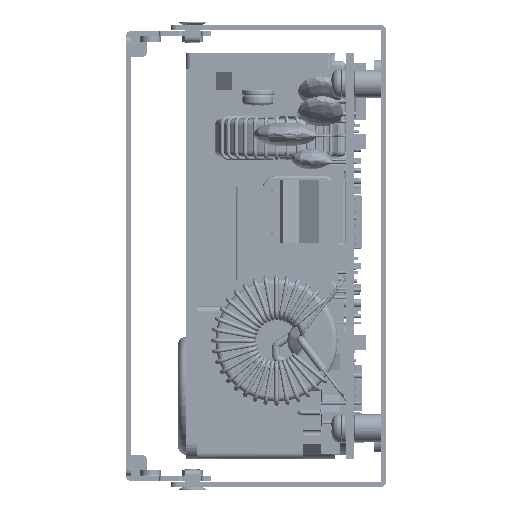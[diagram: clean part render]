
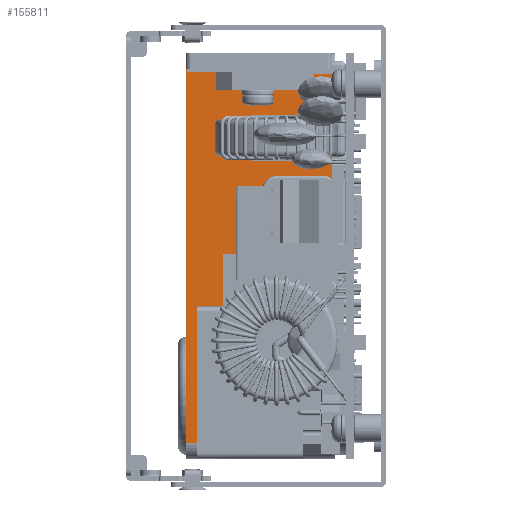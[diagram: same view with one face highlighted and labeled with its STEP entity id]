
A CAD part, left-side view. The second image highlights one B-rep face of the part: STEP entity #155811.
In plain terms, the highlighted planar face has unit normal (-1, 0, 0).
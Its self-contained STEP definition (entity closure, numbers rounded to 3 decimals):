
#103405 = CARTESIAN_POINT ( 'NONE',  ( 34., 30., -73.2 ) ) ;
#103407 = DIRECTION ( 'NONE',  ( 0., -1., 0. ) ) ;
#103408 = VECTOR ( 'NONE', #103407, 1000. ) ;
#103411 = CARTESIAN_POINT ( 'NONE',  ( 34., 30., -73.2 ) ) ;
#103412 = LINE ( 'NONE', #103411, #103408 ) ;
#103960 = CARTESIAN_POINT ( 'NONE',  ( 34., 2.5, -73.2 ) ) ;
#104399 = DIRECTION ( 'NONE',  ( 0., 0., -1. ) ) ;
#104401 = DIRECTION ( 'NONE',  ( 1., 0., 0. ) ) ;
#104402 = CARTESIAN_POINT ( 'NONE',  ( 34., 9.5, -33.7 ) ) ;
#104404 = AXIS2_PLACEMENT_3D ( 'NONE', #104402, #104401, #104399 ) ;
#104406 = CIRCLE ( 'NONE', #104404, 3.25 ) ;
#104726 = DIRECTION ( 'NONE',  ( 0., 0., -1. ) ) ;
#104728 = DIRECTION ( 'NONE',  ( 1., 0., 0. ) ) ;
#104729 = AXIS2_PLACEMENT_3D ( 'NONE', #104737, #104728, #104726 ) ;
#104737 = CARTESIAN_POINT ( 'NONE',  ( 34., 30., -3. ) ) ;
#104738 = PLANE ( 'NONE',  #104729 ) ;
#104740 = FACE_OUTER_BOUND ( 'NONE', #154792, .T. ) ;
#104741 = FACE_BOUND ( 'NONE', #155774, .T. ) ;
#104745 = FACE_BOUND ( 'NONE', #155875, .T. ) ;
#104992 = DIRECTION ( 'NONE',  ( 0., 0., -1. ) ) ;
#104994 = DIRECTION ( 'NONE',  ( 1., 0., 0. ) ) ;
#104996 = CARTESIAN_POINT ( 'NONE',  ( 34., 9.5, -58.7 ) ) ;
#104998 = AXIS2_PLACEMENT_3D ( 'NONE', #104996, #104994, #104992 ) ;
#104999 = CIRCLE ( 'NONE', #104998, 3.25 ) ;
#105870 = DIRECTION ( 'NONE',  ( 0., 0., 1. ) ) ;
#105872 = VECTOR ( 'NONE', #105870, 1000. ) ;
#105873 = CARTESIAN_POINT ( 'NONE',  ( 34., 2.5, -3. ) ) ;
#105875 = LINE ( 'NONE', #105873, #105872 ) ;
#107544 = DIRECTION ( 'NONE',  ( 0., 0., 1. ) ) ;
#107546 = VECTOR ( 'NONE', #107544, 1000. ) ;
#107547 = CARTESIAN_POINT ( 'NONE',  ( 34., 30., -3. ) ) ;
#107549 = LINE ( 'NONE', #107547, #107546 ) ;
#107871 = CARTESIAN_POINT ( 'NONE',  ( 34., 9.5, -36.95 ) ) ;
#150242 = CARTESIAN_POINT ( 'NONE',  ( 34., 9.5, -30.45 ) ) ;
#151791 = DIRECTION ( 'NONE',  ( 0., 0., -1. ) ) ;
#151792 = DIRECTION ( 'NONE',  ( 1., 0., 0. ) ) ;
#151794 = CARTESIAN_POINT ( 'NONE',  ( 34., 9.5, -33.7 ) ) ;
#151796 = AXIS2_PLACEMENT_3D ( 'NONE', #151794, #151792, #151791 ) ;
#151798 = CIRCLE ( 'NONE', #151796, 3.25 ) ;
#154792 = EDGE_LOOP ( 'NONE', ( #156001, #156277, #156582, #156659 ) ) ;
#155334 = EDGE_CURVE ( 'NONE', #155336, #155524, #103412, .T. ) ;
#155336 = VERTEX_POINT ( 'NONE', #103405 ) ;
#155524 = VERTEX_POINT ( 'NONE', #103960 ) ;
#155691 = EDGE_CURVE ( 'NONE', #156820, #173962, #104406, .T. ) ;
#155764 = ORIENTED_EDGE ( 'NONE', *, *, #183239, .T. ) ;
#155774 = EDGE_LOOP ( 'NONE', ( #155966, #155885 ) ) ;
#155811 = ADVANCED_FACE ( 'NONE', ( #104745, #104741, #104740 ), #104738, .F. ) ;
#155875 = EDGE_LOOP ( 'NONE', ( #155764, #155893 ) ) ;
#155885 = ORIENTED_EDGE ( 'NONE', *, *, #155691, .T. ) ;
#155893 = ORIENTED_EDGE ( 'NONE', *, *, #155896, .T. ) ;
#155896 = EDGE_CURVE ( 'NONE', #177689, #184819, #104999, .T. ) ;
#155966 = ORIENTED_EDGE ( 'NONE', *, *, #174218, .T. ) ;
#156001 = ORIENTED_EDGE ( 'NONE', *, *, #156173, .T. ) ;
#156173 = EDGE_CURVE ( 'NONE', #155524, #214818, #105875, .T. ) ;
#156277 = ORIENTED_EDGE ( 'NONE', *, *, #215420, .F. ) ;
#156582 = ORIENTED_EDGE ( 'NONE', *, *, #156655, .F. ) ;
#156655 = EDGE_CURVE ( 'NONE', #155336, #214089, #107549, .T. ) ;
#156659 = ORIENTED_EDGE ( 'NONE', *, *, #155334, .T. ) ;
#156820 = VERTEX_POINT ( 'NONE', #107871 ) ;
#159279 = CARTESIAN_POINT ( 'NONE',  ( 34., 9.5, -61.95 ) ) ;
#173476 = DIRECTION ( 'NONE',  ( 0., 0., -1. ) ) ;
#173478 = DIRECTION ( 'NONE',  ( 1., 0., 0. ) ) ;
#173480 = CARTESIAN_POINT ( 'NONE',  ( 34., 9.5, -58.7 ) ) ;
#173482 = AXIS2_PLACEMENT_3D ( 'NONE', #173480, #173478, #173476 ) ;
#173483 = CIRCLE ( 'NONE', #173482, 3.25 ) ;
#173962 = VERTEX_POINT ( 'NONE', #150242 ) ;
#174218 = EDGE_CURVE ( 'NONE', #173962, #156820, #151798, .T. ) ;
#177689 = VERTEX_POINT ( 'NONE', #159279 ) ;
#178320 = CARTESIAN_POINT ( 'NONE',  ( 34., 9.5, -55.45 ) ) ;
#183239 = EDGE_CURVE ( 'NONE', #184819, #177689, #173483, .T. ) ;
#184819 = VERTEX_POINT ( 'NONE', #178320 ) ;
#214089 = VERTEX_POINT ( 'NONE', #256300 ) ;
#214818 = VERTEX_POINT ( 'NONE', #257099 ) ;
#215420 = EDGE_CURVE ( 'NONE', #214089, #214818, #257858, .T. ) ;
#256300 = CARTESIAN_POINT ( 'NONE',  ( 34., 30., -3. ) ) ;
#257099 = CARTESIAN_POINT ( 'NONE',  ( 34., 2.5, -3. ) ) ;
#257853 = DIRECTION ( 'NONE',  ( 0., -1., 0. ) ) ;
#257855 = VECTOR ( 'NONE', #257853, 1000. ) ;
#257856 = CARTESIAN_POINT ( 'NONE',  ( 34., 30., -3. ) ) ;
#257858 = LINE ( 'NONE', #257856, #257855 ) ;
